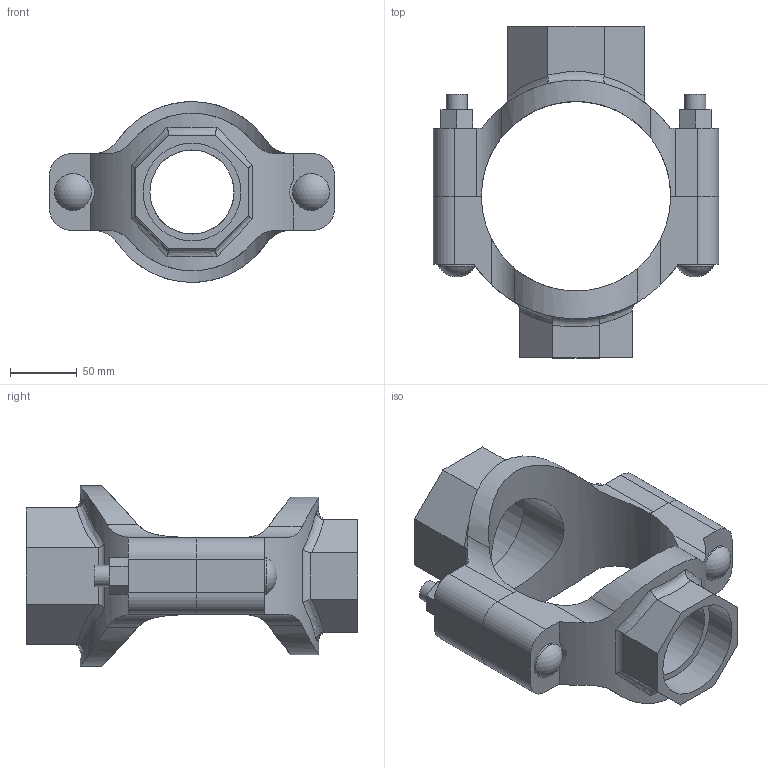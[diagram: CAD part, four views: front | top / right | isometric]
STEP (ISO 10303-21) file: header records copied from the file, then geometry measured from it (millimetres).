
FILE_DESCRIPTION(/* description */ ('VIC MECH-T BRANCH OUTLET CROSS STYLE 920N (THD)','CAx-IF Rec.Pracs.---Representation and Presentation of Product Manufacturing Information (PMI)---4.0---2014-10-13'),/* implementation_level */ '2;1');
FILE_NAME(/* name */ 'C:\Users\Vjadhav\AppData\Roaming\Autodesk\ApplicationPlugins\Back Up\Victaulic_IPS_Mechanical-Cross Outlet_Style 920N (FPT)\Victaulic_IPS_Mechanical-Cross Outlet_05.0x03.0x02.5 (125x80x65).stp',/* time_stamp */ '2020-08-06T18:59:27+05:00',/* author */ ('Vjadhav'),/* organization */ ('Victaulic'),/* preprocessor_version */ 'ST-DEVELOPER v17.2',/* originating_system */ 'Autodesk Inventor 2019',/* authorisation */ '');
FILE_SCHEMA (('AP242_MANAGED_MODEL_BASED_3D_ENGINEERING_MIM_LF { 1 0 10303 442 1 1 4 }'));
Length unit declared in the file: inch
Products named in the file (3): 920NT-05.0x03.0x02.5; 920T-05.0x03.0; 920T-05.0x02.5
Assembly tree (2 placements, depth 2):
  920NT-05.0x03.0x02.5
    920T-05.0x03.0
    920T-05.0x02.5
Bounding box: 212.85 x 247.65 x 134.77 mm (x, y, z)
Volume: 1052833.4 mm3; surface area: 186780.1 mm2
Topology: 2 solids, 2 shells, 130 faces, 344 edges, 232 vertices
Faces by surface type: plane 68, cylinder 48, bspline 8, torus 4, sphere 2
Full cylindrical faces by diameter (mm): 15.875 x4, 27.496 x2, 62.738 x1, 73.025 x1, 77.787 x1, 88.9 x1
Entity records: 5214 total; most frequent: CARTESIAN_POINT 1755, ORIENTED_EDGE 688, DIRECTION 638, EDGE_CURVE 344, VERTEX_POINT 232, AXIS2_PLACEMENT_3D 227, LINE 184, VECTOR 184
